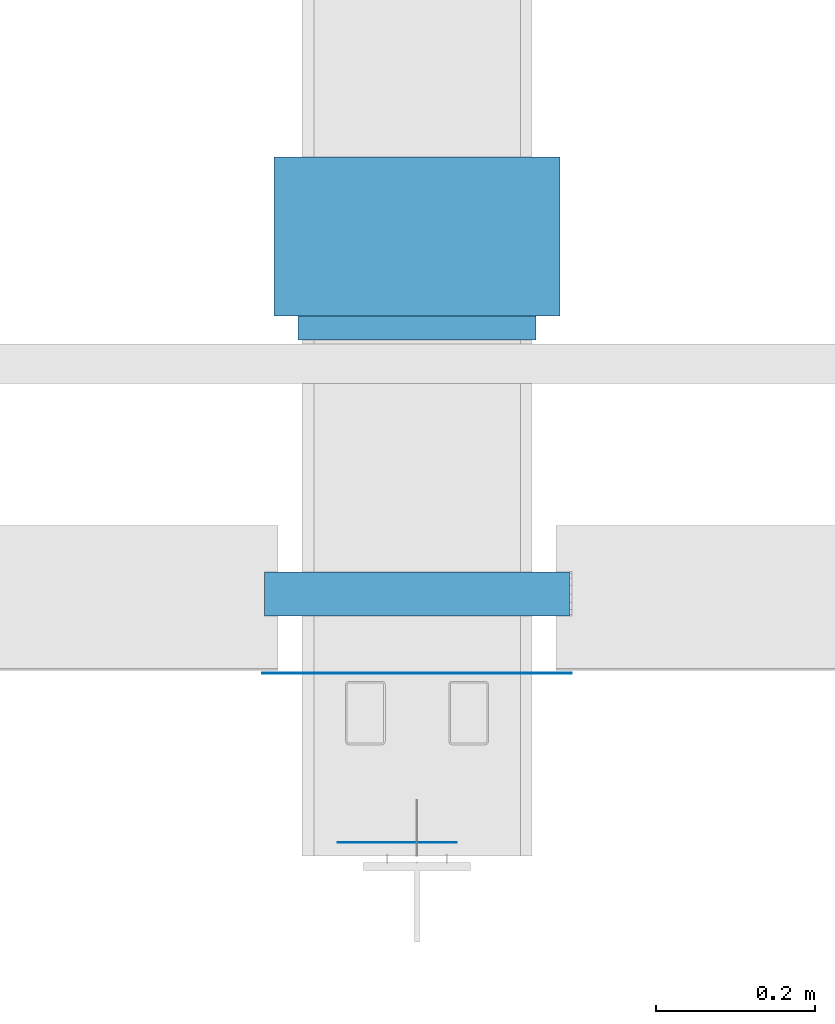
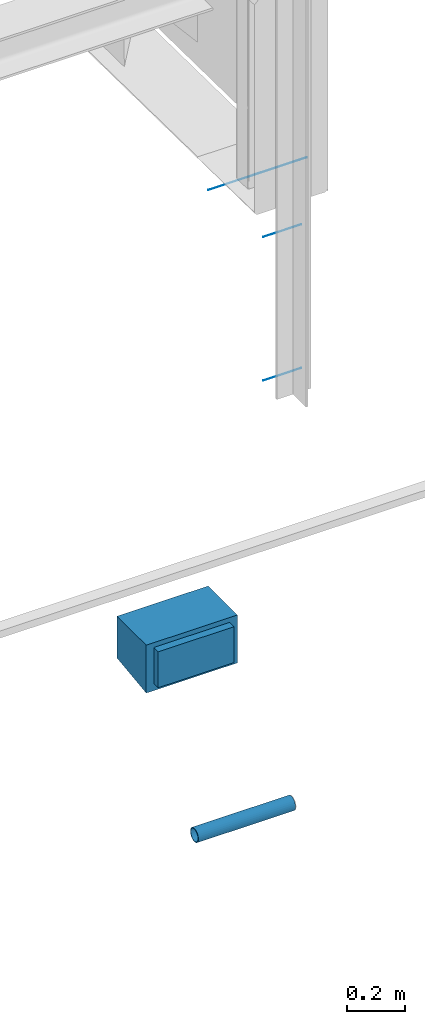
# One storey, part 9 of 186: 6 beams.
"""IFC4X3_ADD2 building model written with IfcOpenShell, lengths in millimetres."""

from ifc_helpers import new_model, entity, si_unit, direction, frame, frame_2d, origin_with_axes, place, context, subcontext, project, spatial, rectangle, hollow_circle, extrude, material, element, save


model = new_model("IFC4X3_ADD2")

# Units and contexts
model_context = context("Model", 3, precision=1e-05, world=origin_with_axes(), true_north=direction((0.0, 1.0)))
body_context = subcontext(model_context, "Body", "Model", "MODEL_VIEW")
ifc_project = project(units=[si_unit("LENGTHUNIT", "METRE", prefix="MILLI"), si_unit("AREAUNIT", "SQUARE_METRE"), si_unit("VOLUMEUNIT", "CUBIC_METRE"), si_unit("PLANEANGLEUNIT", "RADIAN"), si_unit("TIMEUNIT", "SECOND"), si_unit("MASSUNIT", "GRAM")], contexts=[model_context])

# Site, building, storey
site_placement = place(None, origin_with_axes())
site = spatial("IfcSite", under=ifc_project, at=site_placement, Name="Site", CompositionType="ELEMENT")
building_placement = place(site_placement, origin_with_axes())
building = spatial("IfcBuilding", under=site, at=building_placement, Name="IFC Building Story")
storey_placement = place(building_placement, frame((0.0, 0.0, 4370.0), z_axis=(0.0, 0.0, 1.0), x_axis=(1.0, 0.0, 0.0)))
storey = spatial("IfcBuildingStorey", under=building, at=storey_placement, Name="ETAGE 10 (1)", Elevation=4370.0)

# Beams
ifc_material_1 = material(Name="STEEL/Accessory_C60/75")
beam_1_placement = place(storey_placement, frame((16736.1888269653, 799.999963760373, 1810.0), z_axis=(-1.0, 0.0, 0.0), x_axis=(0.0, 0.0, 1.0)))
element("IfcBeam", 1, at=beam_1_placement, inside=storey, material=ifc_material_1, Name="BEK1", ObjectType="CORBEL200-200-175", context=body_context, shape_type="SweptSolid", body=[
    extrude(entity("IfcTrapeziumProfileDef", "AREA", None, entity("IfcAxis2Placement2D", entity("IfcCartesianPoint", [0.0, 5.95523630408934e-12]), entity("IfcDirection", [1.0, 0.0])), 200.0, 175.0, 200.0, 25.0), origin_with_axes(), (0.0, 0.0, 1.0), 360.0),
])
ifc_material_2 = material(Name="STEEL/Accessory_invisible")
beam_2_placement = place(storey_placement, frame((16751.1888269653, 249.999963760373, 4089.5), z_axis=(-1.0, 0.0, 0.0), x_axis=(0.0, 1.0, 0.0)))
element("IfcBeam", 2, at=beam_2_placement, inside=storey, material=ifc_material_2, Name="RH15", ObjectType="1*1 3", context=body_context, shape_type="SweptSolid", body=[
    extrude(rectangle(XDim=0.9999999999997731, YDim=0.9999999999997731, at=frame_2d((0.0, 5.95523630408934e-12), x_axis=(1.0, 0.0))), origin_with_axes(), (0.0, 0.0, 1.0), 390.0),
])
for number, where, z_axis, x_axis, name in (
    (3, (16606.1888269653, 36.9999637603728, 3989.5), (-1.0, 0.0, 0.0), (0.0, 1.0, 0.0), "RH14"),
    (4, (16606.1888269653, 36.9999637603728, 3389.5), (-1.0, 0.0, 0.0), (0.0, 1.0, 0.0), "RH14"),
):
    element("IfcBeam", number, at=place(storey_placement, frame(where, z_axis=z_axis, x_axis=x_axis)), inside=storey, material=ifc_material_2, Name=name, ObjectType="1*1 3", context=body_context, shape_type="SweptSolid", body=[
        extrude(rectangle(XDim=0.9999999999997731, YDim=0.9999999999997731, at=frame_2d((0.0, 5.95523630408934e-12), x_axis=(1.0, 0.0))), origin_with_axes(), (0.0, 0.0, 1.0), 150.0000000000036),
    ])
ifc_material_3 = material(Name="STEEL/Accessory_PVC")
beam_3_placement = place(storey_placement, frame((16364.1888269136, 349.999963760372, 1333.48), z_axis=(1.0, 0.0, 0.0), x_axis=(0.0, 0.0, -1.0)))
element("IfcBeam", 5, at=beam_3_placement, inside=storey, material=ifc_material_3, Name="PS13", ObjectType="O56*3", context=body_context, shape_type="SweptSolid", body=[
    extrude(hollow_circle(Radius=28.0, WallThickness=3.0, at=frame_2d((0.0, 5.95523630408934e-12), x_axis=(1.0, 0.0))), origin_with_axes(), (0.0, 0.0, 1.0), 384.0),
])
ifc_material_4 = material(Name="STEEL/Accessory_EPS")
beam_4_placement = place(storey_placement, frame((16706.1888269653, 684.999963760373, 1815.00000000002), z_axis=(-1.0, 0.0, 0.0), x_axis=(0.0, 0.0, -1.0)))
element("IfcBeam", 6, at=beam_4_placement, inside=storey, material=ifc_material_4, Name="POL4", ObjectType="30*300 4", context=body_context, shape_type="SweptSolid", body=[
    extrude(rectangle(XDim=149.999999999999, YDim=29.9999999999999, at=frame_2d((0.0, 5.95523630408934e-12), x_axis=(1.0, 0.0))), origin_with_axes(), (0.0, 0.0, 1.0), 300.0),
])

save(model, "model.ifc")
